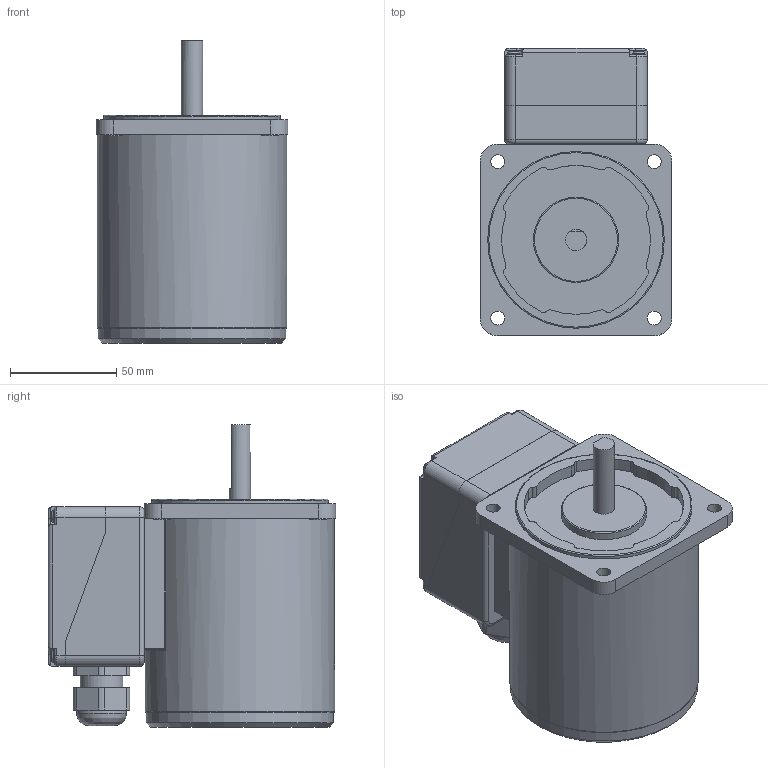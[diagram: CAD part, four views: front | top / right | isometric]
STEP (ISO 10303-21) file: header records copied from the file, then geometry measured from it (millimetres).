
FILE_DESCRIPTION((''),'2;1');
FILE_NAME('E:\2공장-도면\3D\표준형 3D(민규)\step file\K9IS40Nㅁ-T5.stp','2014-11-12T17:53:57',('AHN'),(''),'Autodesk Inventor 2012','Autodesk Inventor 2012','');
FILE_SCHEMA(('CONFIG_CONTROL_DESIGN'));
Length unit declared in the file: millimetre
Products named in the file (5): K9IS40Nㅁ-T5; 케이블; BASE(a); COVER(a); K9IS40Nㅁ
Assembly tree (4 placements, depth 2):
  K9IS40Nㅁ-T5
    케이블
    BASE(a)
    COVER(a)
    K9IS40Nㅁ
Bounding box: 90 x 135 x 142 mm (x, y, z)
Volume: 749984.9 mm3; surface area: 94316.9 mm2
Topology: 4 solids, 4 shells, 508 faces, 1275 edges, 785 vertices
Faces by surface type: cylinder 232, plane 132, torus 94, bspline 21, sphere 20, cone 9
Full cylindrical faces by diameter (mm): 3.242 x4, 3.5 x4, 4.5 x4, 5.5 x4, 6.5 x4, 8 x4, 10 x1, 20 x1, 21 x1, 23.5 x1, 40 x1, 83 x1, 88 x1, 89 x1
Entity records: 15899 total; most frequent: CARTESIAN_POINT 3561, DIRECTION 2811, ORIENTED_EDGE 2392, EDGE_CURVE 1196, AXIS2_PLACEMENT_3D 1154, VERTEX_POINT 765, CIRCLE 650, EDGE_LOOP 595
